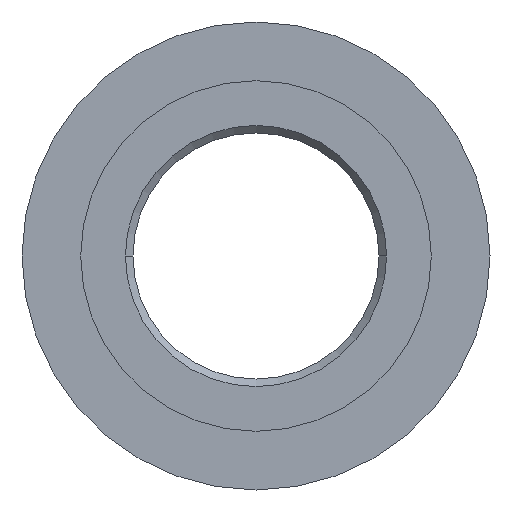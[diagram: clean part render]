
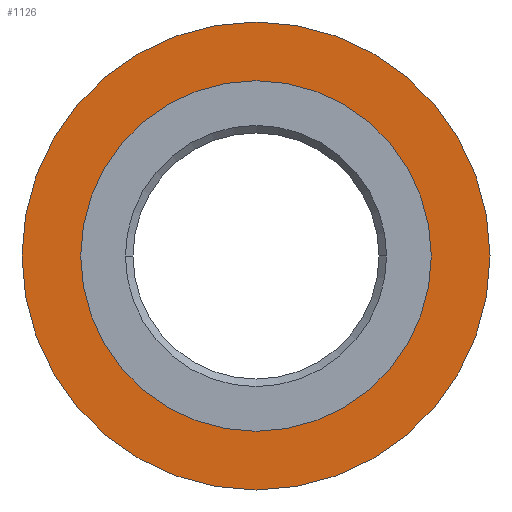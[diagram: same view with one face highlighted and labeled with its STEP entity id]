
A CAD part, left-side view. The second image highlights one B-rep face of the part: STEP entity #1126.
In plain terms, the highlighted planar face has unit normal (-1, 0, 0).
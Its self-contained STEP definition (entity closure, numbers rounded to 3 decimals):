
#130=CARTESIAN_POINT('',(0.,20.6,0.0));
#131=VERTEX_POINT('',#130);
#140=CARTESIAN_POINT('',(0.,-20.6,0.));
#141=VERTEX_POINT('',#140);
#142=CARTESIAN_POINT('',(0.,0.,0.0));
#143=DIRECTION('',(1.0,0.0,0.0));
#144=DIRECTION('',(0.0,1.0,0.0));
#145=AXIS2_PLACEMENT_3D('',#142,#143,#144);
#146=CIRCLE('',#145,20.6);
#147=EDGE_CURVE('',#141,#131,#146,.T.);
#278=CARTESIAN_POINT('',(0.,27.5,0.0));
#279=VERTEX_POINT('',#278);
#288=CARTESIAN_POINT('',(0.,-27.5,0.));
#289=VERTEX_POINT('',#288);
#290=CARTESIAN_POINT('',(0.,0.,0.0));
#291=DIRECTION('',(1.0,0.0,0.0));
#292=DIRECTION('',(0.0,1.0,0.0));
#293=AXIS2_PLACEMENT_3D('',#290,#291,#292);
#294=CIRCLE('',#293,27.5);
#295=EDGE_CURVE('',#279,#289,#294,.T.);
#987=CARTESIAN_POINT('',(0.,0.,0.0));
#988=DIRECTION('',(1.0,0.0,0.0));
#989=DIRECTION('',(0.0,1.0,0.0));
#990=AXIS2_PLACEMENT_3D('',#987,#988,#989);
#991=CIRCLE('',#990,27.5);
#992=EDGE_CURVE('',#289,#279,#991,.T.);
#1103=CARTESIAN_POINT('',(0.,0.,0.0));
#1104=DIRECTION('',(1.0,0.0,0.0));
#1105=DIRECTION('',(0.0,1.0,0.0));
#1106=AXIS2_PLACEMENT_3D('',#1103,#1104,#1105);
#1107=CIRCLE('',#1106,20.6);
#1108=EDGE_CURVE('',#131,#141,#1107,.T.);
#1113=CARTESIAN_POINT('',(0.,24.05,0.0));
#1114=DIRECTION('',(-1.0,0.0,0.0));
#1115=DIRECTION('',(0.0,0.0,1.0));
#1116=AXIS2_PLACEMENT_3D('',#1113,#1114,#1115);
#1117=PLANE('',#1116);
#1118=ORIENTED_EDGE('',*,*,#295,.F.);
#1119=ORIENTED_EDGE('',*,*,#992,.F.);
#1120=EDGE_LOOP('',(#1118,#1119));
#1121=FACE_OUTER_BOUND('',#1120,.T.);
#1122=ORIENTED_EDGE('',*,*,#1108,.T.);
#1123=ORIENTED_EDGE('',*,*,#147,.T.);
#1124=EDGE_LOOP('',(#1122,#1123));
#1125=FACE_BOUND('',#1124,.T.);
#1126=ADVANCED_FACE('',(#1121,#1125),#1117,.T.);
